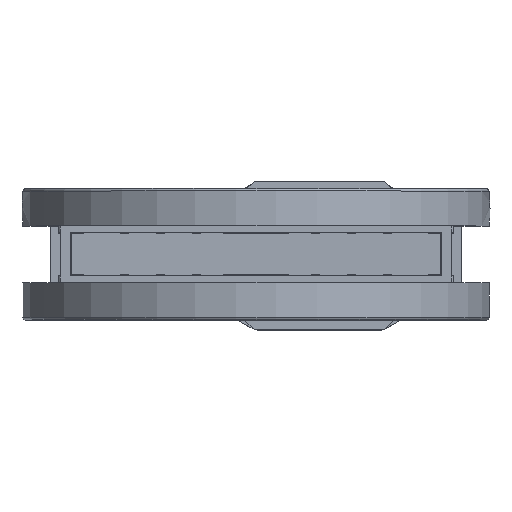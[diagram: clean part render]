
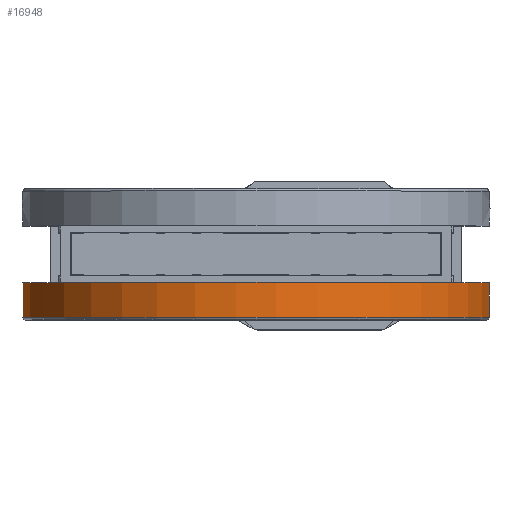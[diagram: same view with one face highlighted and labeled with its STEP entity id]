
A CAD part, top view. The second image highlights one B-rep face of the part: STEP entity #16948.
In plain terms, the highlighted cylindrical face has radius 142.5 mm (diameter 285 mm), a full revolution.
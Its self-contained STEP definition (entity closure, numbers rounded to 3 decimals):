
#16948=ADVANCED_FACE('BCT_REF_56374',(#18584,#18585),#17481,.T.);
#17481=CYLINDRICAL_SURFACE('',#42899,142.5);
#18584=FACE_BOUND('',#21148,.T.);
#18585=FACE_BOUND('',#21149,.T.);
#21148=EDGE_LOOP('',(#30288));
#21149=EDGE_LOOP('',(#30289));
#30288=ORIENTED_EDGE('',*,*,#38664,.F.);
#30289=ORIENTED_EDGE('',*,*,#38670,.T.);
#34001=VERTEX_POINT('',#65954);
#34007=VERTEX_POINT('',#65971);
#38664=EDGE_CURVE('',#34001,#34001,#39964,.T.);
#38670=EDGE_CURVE('',#34007,#34007,#39970,.T.);
#39964=CIRCLE('',#42886,142.5);
#39970=CIRCLE('',#42897,142.5);
#42886=AXIS2_PLACEMENT_3D('',#65953,#51907,#51908);
#42897=AXIS2_PLACEMENT_3D('',#65970,#51929,#51930);
#42899=AXIS2_PLACEMENT_3D('',#65973,#51933,#51934);
#51907=DIRECTION('',(0.,-1.,0.));
#51908=DIRECTION('',(0.259,0.,0.966));
#51929=DIRECTION('',(0.,-1.,0.));
#51930=DIRECTION('',(0.259,0.,0.966));
#51933=DIRECTION('',(0.,-1.,0.));
#51934=DIRECTION('',(0.259,0.,0.966));
#65953=CARTESIAN_POINT('',(0.,-38.425,412.));
#65954=CARTESIAN_POINT('',(36.882,-38.425,549.644));
#65970=CARTESIAN_POINT('',(0.,-17.225,412.));
#65971=CARTESIAN_POINT('',(36.882,-17.225,549.644));
#65973=CARTESIAN_POINT('',(0.,-39.925,412.));
